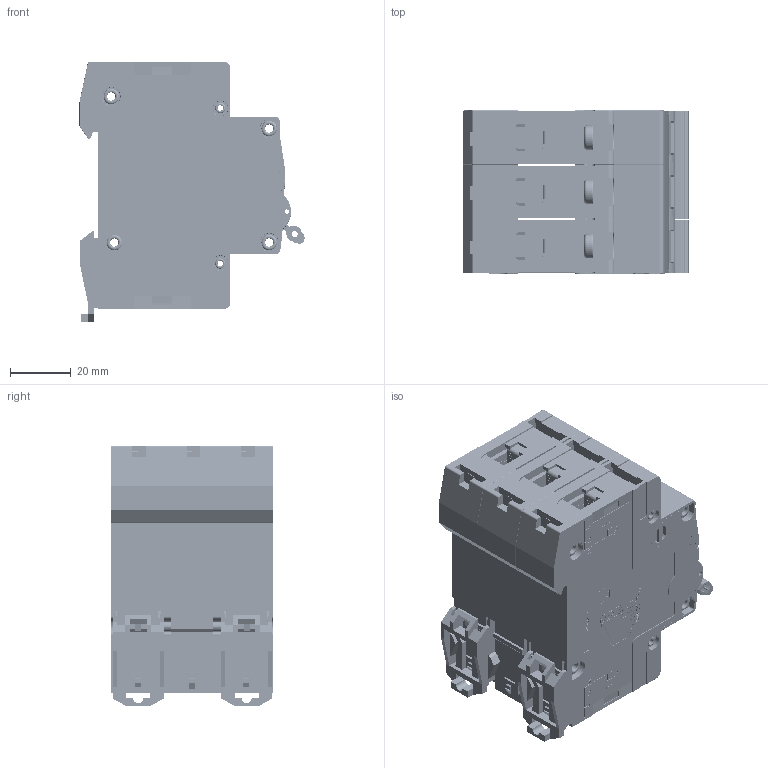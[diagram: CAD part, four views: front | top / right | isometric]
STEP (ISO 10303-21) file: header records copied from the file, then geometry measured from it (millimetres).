
FILE_DESCRIPTION (( 'STEP AP214' ), '1' );
FILE_NAME ('TDZ-3D-16.STEP', '2026-04-30T13:08:38', ( '' ), ( '' ), 'SwSTEP 2.0', 'SolidWorks 2025', '' );
FILE_SCHEMA (( 'AUTOMOTIVE_DESIGN' ));
Length unit declared in the file: millimetre
Products named in the file (1): TDZ-3D-16
Bounding box: 73.85 x 53.4 x 85.3 mm (x, y, z)
Volume: 89398.3 mm3; surface area: 141644.4 mm2
Topology: 44 solids, 44 shells, 11830 faces, 33440 edges, 22223 vertices
Faces by surface type: plane 7428, cylinder 2740, bspline 1233, torus 291, cone 138
Entity records: 598474 total; most frequent: CARTESIAN_POINT 174128, ORIENTED_EDGE 66808, DIRECTION 55882, EDGE_CURVE 33404, VECTOR 23406, LINE 23406, VERTEX_POINT 22223, AXIS2_PLACEMENT_3D 16238
